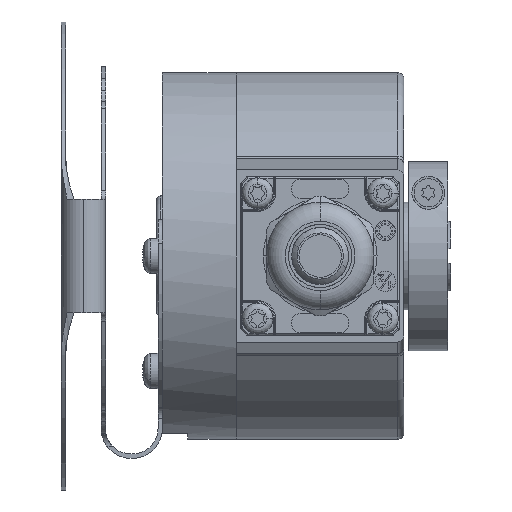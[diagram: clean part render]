
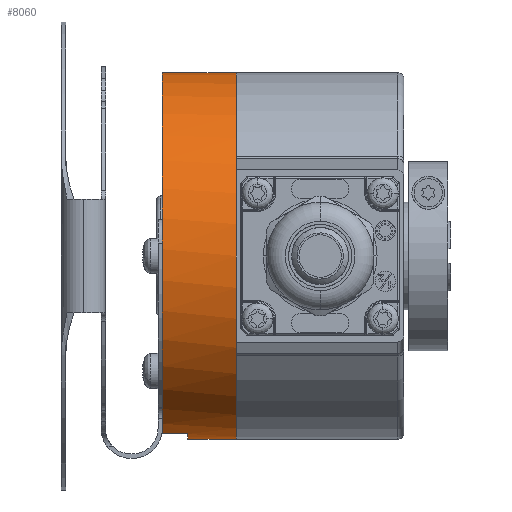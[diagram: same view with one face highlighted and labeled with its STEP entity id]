
A CAD part, front view. The second image highlights one B-rep face of the part: STEP entity #8060.
In plain terms, the highlighted cylindrical face has radius 29 mm (diameter 58 mm), a partial arc.
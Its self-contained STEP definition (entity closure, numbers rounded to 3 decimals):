
#162 = AXIS2_PLACEMENT_3D ( 'NONE', #4535, #4287, #19513 ) ;
#263 = DIRECTION ( 'NONE',  ( 0., 0., -1. ) ) ;
#450 = VERTEX_POINT ( 'NONE', #18257 ) ;
#767 = CARTESIAN_POINT ( 'NONE',  ( 8.068, 25.423, -29. ) ) ;
#990 = EDGE_CURVE ( 'NONE', #9812, #450, #9938, .T. ) ;
#1455 = ORIENTED_EDGE ( 'NONE', *, *, #5099, .F. ) ;
#1619 = ORIENTED_EDGE ( 'NONE', *, *, #3538, .T. ) ;
#2083 = CARTESIAN_POINT ( 'NONE',  ( 8.068, 25.423, 29. ) ) ;
#3398 = DIRECTION ( 'NONE',  ( 1., 0., 0. ) ) ;
#3520 = CARTESIAN_POINT ( 'NONE',  ( 8.068, 25.423, 0. ) ) ;
#3538 = EDGE_CURVE ( 'NONE', #20724, #11340, #19186, .T. ) ;
#3721 = DIRECTION ( 'NONE',  ( 1., 0., 0. ) ) ;
#4287 = DIRECTION ( 'NONE',  ( 1., 0., 0. ) ) ;
#4535 = CARTESIAN_POINT ( 'NONE',  ( 0.378, 25.423, 0. ) ) ;
#5040 = ORIENTED_EDGE ( 'NONE', *, *, #9502, .F. ) ;
#5099 = EDGE_CURVE ( 'NONE', #9812, #18835, #15233, .T. ) ;
#5553 = VERTEX_POINT ( 'NONE', #17645 ) ;
#6148 = CYLINDRICAL_SURFACE ( 'NONE', #6590, 29. ) ;
#6590 = AXIS2_PLACEMENT_3D ( 'NONE', #21253, #13485, #263 ) ;
#6595 = DIRECTION ( 'NONE',  ( 0., 0., -1. ) ) ;
#8060 = ADVANCED_FACE ( 'NONE', ( #23008 ), #6148, .T. ) ;
#8736 = AXIS2_PLACEMENT_3D ( 'NONE', #16173, #21796, #6595 ) ;
#9398 = CARTESIAN_POINT ( 'NONE',  ( 0.378, 25.423, -29. ) ) ;
#9502 = EDGE_CURVE ( 'NONE', #5553, #450, #21318, .T. ) ;
#9632 = CARTESIAN_POINT ( 'NONE',  ( 8.068, 25.423, -29. ) ) ;
#9689 = VECTOR ( 'NONE', #3721, 1000. ) ;
#9812 = VERTEX_POINT ( 'NONE', #16796 ) ;
#9919 = AXIS2_PLACEMENT_3D ( 'NONE', #3520, #3398, #22622 ) ;
#9938 = CIRCLE ( 'NONE', #8736, 29. ) ;
#11340 = VERTEX_POINT ( 'NONE', #767 ) ;
#11530 = CARTESIAN_POINT ( 'NONE',  ( 8.068, 18.423, -28.142 ) ) ;
#11676 = EDGE_LOOP ( 'NONE', ( #1455, #13944, #5040, #19732, #1619, #20757 ) ) ;
#13485 = DIRECTION ( 'NONE',  ( 1., 0., 0. ) ) ;
#13944 = ORIENTED_EDGE ( 'NONE', *, *, #990, .T. ) ;
#15233 = LINE ( 'NONE', #23107, #21784 ) ;
#16173 = CARTESIAN_POINT ( 'NONE',  ( -3.622, 25.423, 0. ) ) ;
#16796 = CARTESIAN_POINT ( 'NONE',  ( -3.622, 25.423, 29. ) ) ;
#17496 = CIRCLE ( 'NONE', #9919, 29. ) ;
#17645 = CARTESIAN_POINT ( 'NONE',  ( 0.378, 18.423, -28.142 ) ) ;
#18257 = CARTESIAN_POINT ( 'NONE',  ( -3.622, 18.423, -28.142 ) ) ;
#18835 = VERTEX_POINT ( 'NONE', #2083 ) ;
#18841 = DIRECTION ( 'NONE',  ( 1., 0., 0. ) ) ;
#19186 = LINE ( 'NONE', #9632, #9689 ) ;
#19187 = DIRECTION ( 'NONE',  ( -1., 0., 0. ) ) ;
#19513 = DIRECTION ( 'NONE',  ( 0., 0., 1. ) ) ;
#19518 = VECTOR ( 'NONE', #19187, 1000. ) ;
#19732 = ORIENTED_EDGE ( 'NONE', *, *, #22711, .T. ) ;
#20724 = VERTEX_POINT ( 'NONE', #9398 ) ;
#20757 = ORIENTED_EDGE ( 'NONE', *, *, #24180, .F. ) ;
#21253 = CARTESIAN_POINT ( 'NONE',  ( 8.068, 25.423, 0. ) ) ;
#21318 = LINE ( 'NONE', #11530, #19518 ) ;
#21784 = VECTOR ( 'NONE', #18841, 1000. ) ;
#21796 = DIRECTION ( 'NONE',  ( 1., 0., 0. ) ) ;
#22622 = DIRECTION ( 'NONE',  ( 0., 0., -1. ) ) ;
#22711 = EDGE_CURVE ( 'NONE', #5553, #20724, #24224, .T. ) ;
#23008 = FACE_OUTER_BOUND ( 'NONE', #11676, .T. ) ;
#23107 = CARTESIAN_POINT ( 'NONE',  ( 8.068, 25.423, 29. ) ) ;
#24180 = EDGE_CURVE ( 'NONE', #18835, #11340, #17496, .T. ) ;
#24224 = CIRCLE ( 'NONE', #162, 29. ) ;
